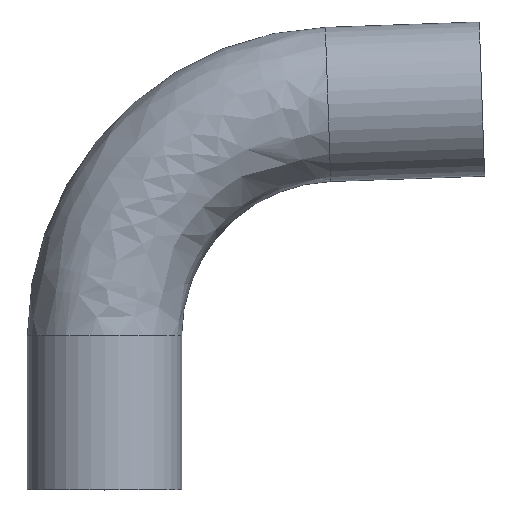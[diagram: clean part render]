
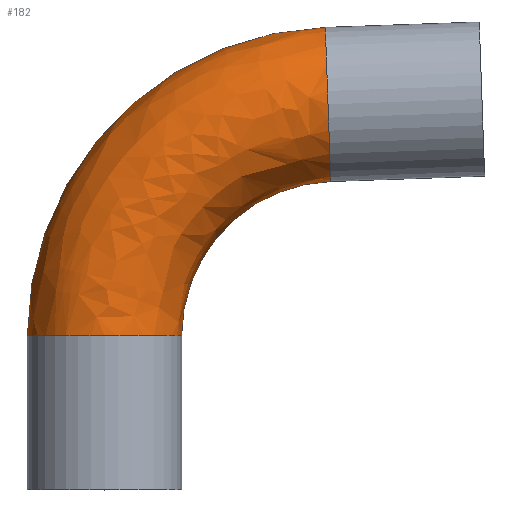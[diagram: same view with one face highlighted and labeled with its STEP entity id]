
A CAD part, top view. The second image highlights one B-rep face of the part: STEP entity #182.
In plain terms, the highlighted free-form (B-spline) face has degree [3, 3] with [4, 4] control points.
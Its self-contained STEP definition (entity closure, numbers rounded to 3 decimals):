
#11 = VERTEX_POINT ( 'NONE', #267 ) ;
#17 =( BOUNDED_SURFACE ( )  B_SPLINE_SURFACE ( 3, 3, ( 
 ( #25, #124, #129, #132 ),
 ( #161, #167, #170, #175 ),
 ( #246, #249, #250, #256 ),
 ( #279, #53, #222, #252 ) ),
 .UNSPECIFIED., .F., .F., .F. ) 
 B_SPLINE_SURFACE_WITH_KNOTS ( ( 4, 4 ),
 ( 4, 4 ),
 ( 0., 1. ),
 ( 0., 1. ),
 .UNSPECIFIED. ) 
 GEOMETRIC_REPRESENTATION_ITEM ( )  RATIONAL_B_SPLINE_SURFACE ( (
 ( 1., 0.813, 0.813, 1.),
 ( 0.333, 0.271, 0.271, 0.333),
 ( 0.333, 0.271, 0.271, 0.333),
 ( 1., 0.813, 0.813, 1.) ) ) 
 REPRESENTATION_ITEM ( '' )  SURFACE ( )  );
#23 = AXIS2_PLACEMENT_3D ( 'NONE', #85, #86, #41 ) ;
#25 = CARTESIAN_POINT ( 'NONE',  ( -19.05, 38.027, 0. ) ) ;
#29 = ORIENTED_EDGE ( 'NONE', *, *, #100, .T. ) ;
#41 = DIRECTION ( 'NONE',  ( -1., 0., 0. ) ) ;
#53 = CARTESIAN_POINT ( 'NONE',  ( 19.05, 59.761, 0. ) ) ;
#59 = ORIENTED_EDGE ( 'NONE', *, *, #465, .F. ) ;
#61 = DIRECTION ( 'NONE',  ( -0.999, -0.035, 0. ) ) ;
#67 = VERTEX_POINT ( 'NONE', #411 ) ;
#72 = DIRECTION ( 'NONE',  ( -0.035, 0.999, 0. ) ) ;
#85 = CARTESIAN_POINT ( 'NONE',  ( 57.2, 38.027, 0. ) ) ;
#86 = DIRECTION ( 'NONE',  ( 0., 0., -1. ) ) ;
#92 = CARTESIAN_POINT ( 'NONE',  ( 55.204, 95.192, 0. ) ) ;
#100 = EDGE_CURVE ( 'NONE', #370, #375, #415, .T. ) ;
#122 = CARTESIAN_POINT ( 'NONE',  ( 19.05, 38.027, 0. ) ) ;
#124 = CARTESIAN_POINT ( 'NONE',  ( -19.05, 81.467, 0. ) ) ;
#129 = CARTESIAN_POINT ( 'NONE',  ( 11.126, 112.715, 0. ) ) ;
#132 = CARTESIAN_POINT ( 'NONE',  ( 54.539, 114.231, 0. ) ) ;
#136 = CARTESIAN_POINT ( 'NONE',  ( 55.869, 76.154, 0. ) ) ;
#158 = CIRCLE ( 'NONE', #376, 76.25 ) ;
#161 = CARTESIAN_POINT ( 'NONE',  ( -19.05, 38.027, 38.1 ) ) ;
#166 = EDGE_CURVE ( 'NONE', #375, #67, #429, .T. ) ;
#167 = CARTESIAN_POINT ( 'NONE',  ( -19.05, 81.467, 38.1 ) ) ;
#170 = CARTESIAN_POINT ( 'NONE',  ( 11.126, 112.715, 38.1 ) ) ;
#175 = CARTESIAN_POINT ( 'NONE',  ( 54.539, 114.231, 38.1 ) ) ;
#182 = ADVANCED_FACE ( 'NONE', ( #343 ), #17, .T. ) ;
#187 = EDGE_CURVE ( 'NONE', #11, #370, #356, .T. ) ;
#222 = CARTESIAN_POINT ( 'NONE',  ( 34.148, 75.396, 0. ) ) ;
#246 = CARTESIAN_POINT ( 'NONE',  ( 19.05, 38.027, 38.1 ) ) ;
#249 = CARTESIAN_POINT ( 'NONE',  ( 19.05, 59.761, 38.1 ) ) ;
#250 = CARTESIAN_POINT ( 'NONE',  ( 34.148, 75.396, 38.1 ) ) ;
#252 = CARTESIAN_POINT ( 'NONE',  ( 55.869, 76.154, 0. ) ) ;
#256 = CARTESIAN_POINT ( 'NONE',  ( 55.869, 76.154, 38.1 ) ) ;
#257 = AXIS2_PLACEMENT_3D ( 'NONE', #92, #61, #72 ) ;
#267 = CARTESIAN_POINT ( 'NONE',  ( -19.05, 38.027, 0. ) ) ;
#274 = AXIS2_PLACEMENT_3D ( 'NONE', #347, #353, #394 ) ;
#279 = CARTESIAN_POINT ( 'NONE',  ( 19.05, 38.027, 0. ) ) ;
#288 = ORIENTED_EDGE ( 'NONE', *, *, #187, .T. ) ;
#289 = ORIENTED_EDGE ( 'NONE', *, *, #166, .T. ) ;
#319 = DIRECTION ( 'NONE',  ( -1., 0., 0. ) ) ;
#324 = DIRECTION ( 'NONE',  ( 0., 0., -1. ) ) ;
#332 = CARTESIAN_POINT ( 'NONE',  ( 57.2, 38.027, 0. ) ) ;
#343 = FACE_OUTER_BOUND ( 'NONE', #382, .T. ) ;
#347 = CARTESIAN_POINT ( 'NONE',  ( 0., 38.027, 0. ) ) ;
#353 = DIRECTION ( 'NONE',  ( 0., 1., 0. ) ) ;
#356 = CIRCLE ( 'NONE', #274, 19.05 ) ;
#370 = VERTEX_POINT ( 'NONE', #122 ) ;
#375 = VERTEX_POINT ( 'NONE', #136 ) ;
#376 = AXIS2_PLACEMENT_3D ( 'NONE', #332, #324, #319 ) ;
#382 = EDGE_LOOP ( 'NONE', ( #288, #29, #289, #59 ) ) ;
#394 = DIRECTION ( 'NONE',  ( -1., 0., 0. ) ) ;
#411 = CARTESIAN_POINT ( 'NONE',  ( 54.539, 114.231, 0. ) ) ;
#415 = CIRCLE ( 'NONE', #23, 38.15 ) ;
#429 = CIRCLE ( 'NONE', #257, 19.05 ) ;
#465 = EDGE_CURVE ( 'NONE', #11, #67, #158, .T. ) ;
